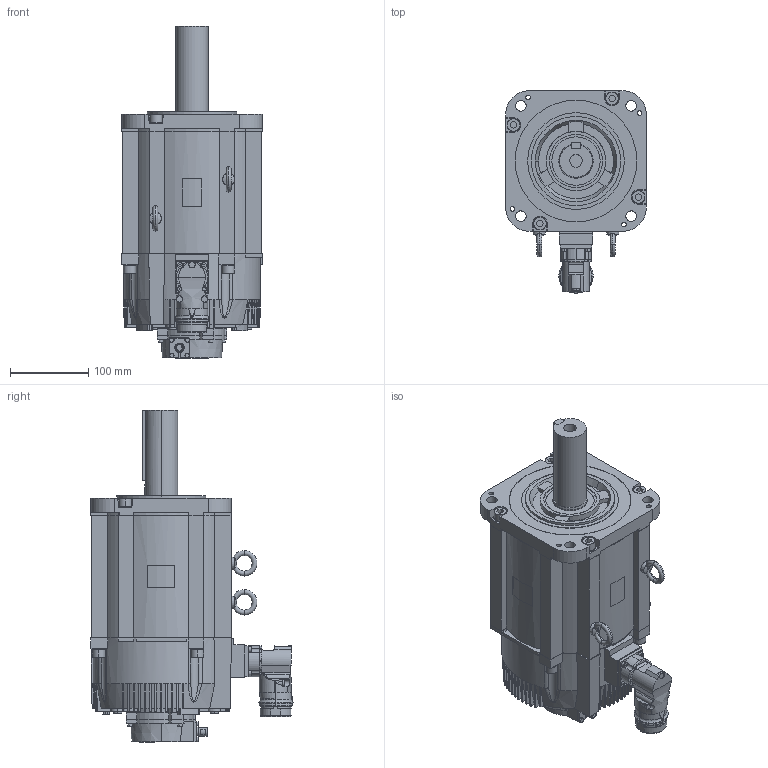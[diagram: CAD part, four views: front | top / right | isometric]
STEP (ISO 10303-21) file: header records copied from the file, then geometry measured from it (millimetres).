
FILE_DESCRIPTION (( 'STEP AP203' ), '1' );
FILE_NAME ('sgm7g_75d_f6h.STEP', '2017-06-13T03:01:14', ( '匠エンジニアリング山之内' ), ( 'TAKUMI-Engniaring' ), 'SwSTEP 2.0', 'SolidWorks 2006303', '' );
FILE_SCHEMA (( 'CONFIG_CONTROL_DESIGN' ));
Products named in the file (5): sgm7g_75d_f6h_base; sgm7g_75d_f6h_eyebolt; sgm7g_75d_f6h; sgm7g_75d_f6h_key; sgm7g_75d_f6h_connector
Assembly tree (5 placements, depth 2):
  sgm7g_75d_f6h
    sgm7g_75d_f6h_base
    sgm7g_75d_f6h_eyebolt  x2
    sgm7g_75d_f6h_connector
    sgm7g_75d_f6h_key
Bounding box: 180 x 259 x 425.6 mm (x, y, z)
Volume: 7549921.7 mm3; surface area: 364626 mm2
Topology: 5 solids, 5 shells, 1241 faces, 3220 edges, 2085 vertices
Faces by surface type: plane 762, cylinder 341, cone 113, torus 13, bspline 12
Entity records: 40363 total; most frequent: CARTESIAN_POINT 9343, DIRECTION 6396, ORIENTED_EDGE 6386, EDGE_CURVE 3193, AXIS2_PLACEMENT_3D 2267, VERTEX_POINT 2069, VECTOR 1862, LINE 1862
